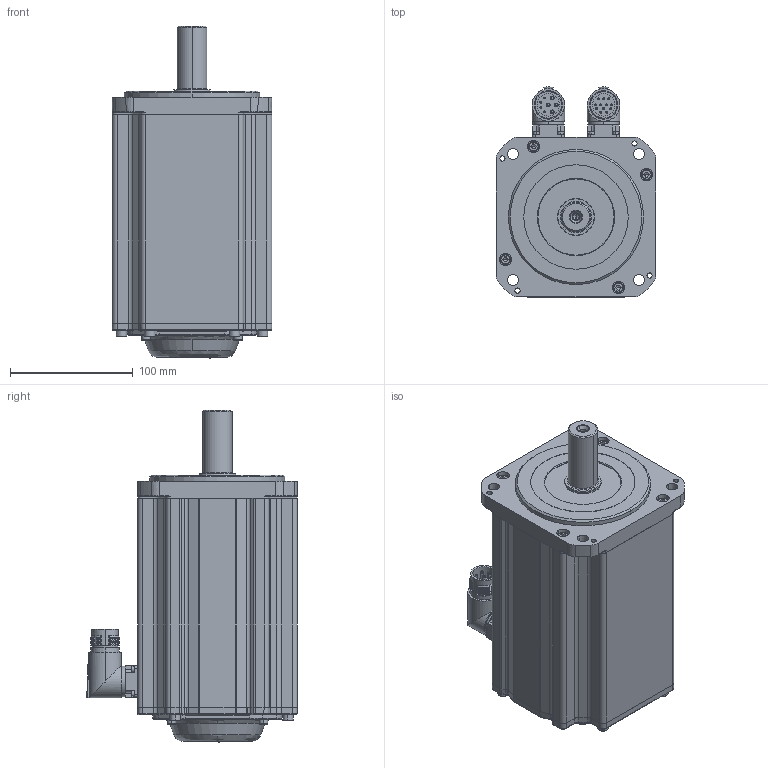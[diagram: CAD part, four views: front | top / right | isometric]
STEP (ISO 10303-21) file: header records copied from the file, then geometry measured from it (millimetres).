
FILE_DESCRIPTION (( 'STEP AP203' ), '1' );
FILE_NAME ('MC20-130-3L30-N402-0¡õPL-NNNN.STEP', '2025-07-29T14:52:04', ( '' ), ( '' ), 'SwSTEP 2.0', 'SolidWorks 2014', '' );
FILE_SCHEMA (( 'CONFIG_CONTROL_DESIGN' ));
Length unit declared in the file: millimetre
Products named in the file (1): MC20-130-3L30-N402-0¡õPL-NNNN
Bounding box: 130 x 171.35 x 270.2 mm (x, y, z)
Volume: 3104396.2 mm3; surface area: 294558.7 mm2
Topology: 28 solids, 28 shells, 2022 faces, 4794 edges, 2857 vertices
Faces by surface type: plane 733, cylinder 567, cone 358, bspline 204, torus 148, sphere 12
Entity records: 62084 total; most frequent: CARTESIAN_POINT 16785, DIRECTION 9523, ORIENTED_EDGE 9364, EDGE_CURVE 4682, AXIS2_PLACEMENT_3D 3694, VERTEX_POINT 2857, EDGE_LOOP 2269, LINE 2135
